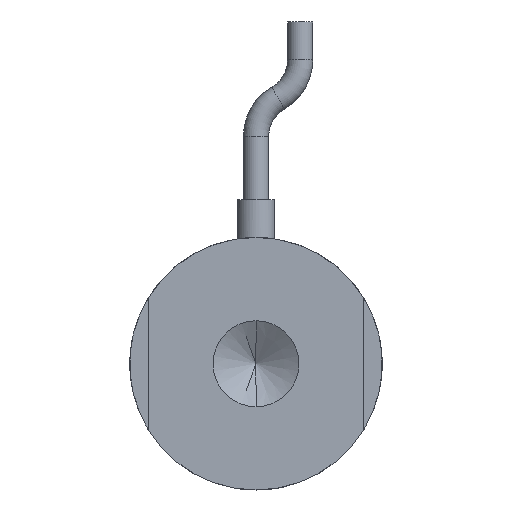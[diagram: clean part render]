
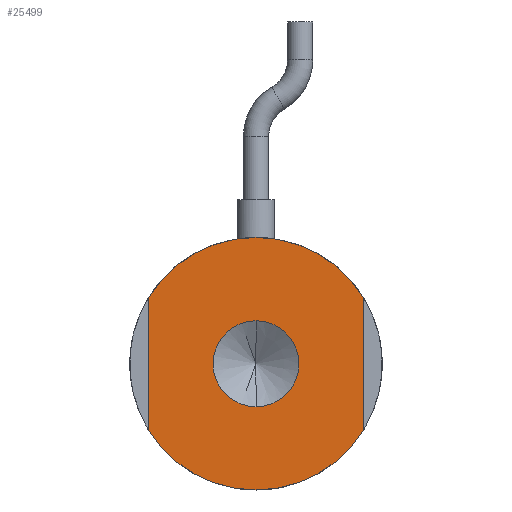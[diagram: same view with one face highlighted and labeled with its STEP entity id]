
A CAD part, front view. The second image highlights one B-rep face of the part: STEP entity #25499.
In plain terms, the highlighted planar face has unit normal (0, -1, 0).
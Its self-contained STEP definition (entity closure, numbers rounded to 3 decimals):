
#26 = VECTOR ( 'NONE', #1445, 1000. ) ;
#227 = EDGE_CURVE ( 'NONE', #7817, #31178, #7430, .T. ) ;
#692 = VERTEX_POINT ( 'NONE', #26215 ) ;
#703 = DIRECTION ( 'NONE',  ( 0., 0., -1. ) ) ;
#1445 = DIRECTION ( 'NONE',  ( 0., 0., 1. ) ) ;
#2531 = CARTESIAN_POINT ( 'NONE',  ( 0., 0., 0. ) ) ;
#2628 = CARTESIAN_POINT ( 'NONE',  ( 0., 0., -10. ) ) ;
#2815 = ORIENTED_EDGE ( 'NONE', *, *, #33041, .F. ) ;
#3113 = DIRECTION ( 'NONE',  ( 0., 0., 1. ) ) ;
#3161 = CARTESIAN_POINT ( 'NONE',  ( 8.5, 0., -5.268 ) ) ;
#3347 = VERTEX_POINT ( 'NONE', #35711 ) ;
#3613 = CARTESIAN_POINT ( 'NONE',  ( 0., 0., 0. ) ) ;
#4086 = EDGE_LOOP ( 'NONE', ( #20116, #2815, #12367, #29564, #39947, #21257 ) ) ;
#4811 = AXIS2_PLACEMENT_3D ( 'NONE', #3613, #28523, #7177 ) ;
#5078 = AXIS2_PLACEMENT_3D ( 'NONE', #43159, #22121, #703 ) ;
#5630 = VERTEX_POINT ( 'NONE', #24818 ) ;
#6110 = DIRECTION ( 'NONE',  ( 0., 0., 1. ) ) ;
#6306 = VERTEX_POINT ( 'NONE', #8224 ) ;
#6884 = VERTEX_POINT ( 'NONE', #18548 ) ;
#7177 = DIRECTION ( 'NONE',  ( 0., 0., 1. ) ) ;
#7430 = CIRCLE ( 'NONE', #10646, 10. ) ;
#7817 = VERTEX_POINT ( 'NONE', #3161 ) ;
#8189 = CARTESIAN_POINT ( 'NONE',  ( 0., 0., 0. ) ) ;
#8224 = CARTESIAN_POINT ( 'NONE',  ( 0., 0., -3.4 ) ) ;
#8828 = VERTEX_POINT ( 'NONE', #26127 ) ;
#10045 = CIRCLE ( 'NONE', #32593, 10. ) ;
#10614 = DIRECTION ( 'NONE',  ( 0., 0., 1. ) ) ;
#10646 = AXIS2_PLACEMENT_3D ( 'NONE', #10773, #10649, #10614 ) ;
#10649 = DIRECTION ( 'NONE',  ( 0., 1., 0. ) ) ;
#10773 = CARTESIAN_POINT ( 'NONE',  ( 0., 0., 0. ) ) ;
#11731 = ORIENTED_EDGE ( 'NONE', *, *, #25260, .F. ) ;
#11789 = PLANE ( 'NONE',  #26919 ) ;
#12367 = ORIENTED_EDGE ( 'NONE', *, *, #227, .F. ) ;
#15373 = DIRECTION ( 'NONE',  ( 0., 1., 0. ) ) ;
#15808 = CARTESIAN_POINT ( 'NONE',  ( -8.5, 0., 0. ) ) ;
#16014 = CIRCLE ( 'NONE', #5078, 3.4 ) ;
#17871 = EDGE_CURVE ( 'NONE', #3347, #5630, #43166, .T. ) ;
#18548 = CARTESIAN_POINT ( 'NONE',  ( 0., 0., 3.4 ) ) ;
#18714 = DIRECTION ( 'NONE',  ( 0., 0., -1. ) ) ;
#19820 = CIRCLE ( 'NONE', #44233, 3.4 ) ;
#20116 = ORIENTED_EDGE ( 'NONE', *, *, #43945, .F. ) ;
#20553 = CARTESIAN_POINT ( 'NONE',  ( 0., 0., 0. ) ) ;
#21257 = ORIENTED_EDGE ( 'NONE', *, *, #17871, .F. ) ;
#22121 = DIRECTION ( 'NONE',  ( 0., -1., 0. ) ) ;
#22263 = EDGE_CURVE ( 'NONE', #6884, #6306, #16014, .T. ) ;
#24151 = DIRECTION ( 'NONE',  ( 0., 0., -1. ) ) ;
#24502 = DIRECTION ( 'NONE',  ( 0., 1., 0. ) ) ;
#24818 = CARTESIAN_POINT ( 'NONE',  ( 0., 0., 10. ) ) ;
#25260 = EDGE_CURVE ( 'NONE', #6306, #6884, #19820, .T. ) ;
#25499 = ADVANCED_FACE ( 'NONE', ( #35249, #34160 ), #11789, .F. ) ;
#26127 = CARTESIAN_POINT ( 'NONE',  ( 8.5, 0., 5.268 ) ) ;
#26215 = CARTESIAN_POINT ( 'NONE',  ( -8.5, 0., -5.268 ) ) ;
#26919 = AXIS2_PLACEMENT_3D ( 'NONE', #8189, #15373, #40116 ) ;
#27459 = DIRECTION ( 'NONE',  ( 0., 1., 0. ) ) ;
#28415 = ORIENTED_EDGE ( 'NONE', *, *, #22263, .F. ) ;
#28470 = LINE ( 'NONE', #15808, #26 ) ;
#28523 = DIRECTION ( 'NONE',  ( 0., 1., 0. ) ) ;
#28967 = VECTOR ( 'NONE', #18714, 1000. ) ;
#29564 = ORIENTED_EDGE ( 'NONE', *, *, #33127, .F. ) ;
#31178 = VERTEX_POINT ( 'NONE', #2628 ) ;
#32593 = AXIS2_PLACEMENT_3D ( 'NONE', #45481, #24502, #3113 ) ;
#33025 = EDGE_LOOP ( 'NONE', ( #11731, #28415 ) ) ;
#33041 = EDGE_CURVE ( 'NONE', #31178, #692, #10045, .T. ) ;
#33127 = EDGE_CURVE ( 'NONE', #8828, #7817, #36070, .T. ) ;
#34160 = FACE_OUTER_BOUND ( 'NONE', #4086, .T. ) ;
#34250 = AXIS2_PLACEMENT_3D ( 'NONE', #2531, #27459, #6110 ) ;
#34823 = CIRCLE ( 'NONE', #4811, 10. ) ;
#35249 = FACE_BOUND ( 'NONE', #33025, .T. ) ;
#35711 = CARTESIAN_POINT ( 'NONE',  ( -8.5, 0., 5.268 ) ) ;
#36070 = LINE ( 'NONE', #39865, #28967 ) ;
#39865 = CARTESIAN_POINT ( 'NONE',  ( 8.5, 0., 0. ) ) ;
#39947 = ORIENTED_EDGE ( 'NONE', *, *, #42137, .F. ) ;
#40116 = DIRECTION ( 'NONE',  ( 0., 0., 1. ) ) ;
#42137 = EDGE_CURVE ( 'NONE', #5630, #8828, #34823, .T. ) ;
#43159 = CARTESIAN_POINT ( 'NONE',  ( 0., 0., 0. ) ) ;
#43166 = CIRCLE ( 'NONE', #34250, 10. ) ;
#43945 = EDGE_CURVE ( 'NONE', #692, #3347, #28470, .T. ) ;
#44233 = AXIS2_PLACEMENT_3D ( 'NONE', #20553, #45144, #24151 ) ;
#45144 = DIRECTION ( 'NONE',  ( 0., -1., 0. ) ) ;
#45481 = CARTESIAN_POINT ( 'NONE',  ( 0., 0., 0. ) ) ;
